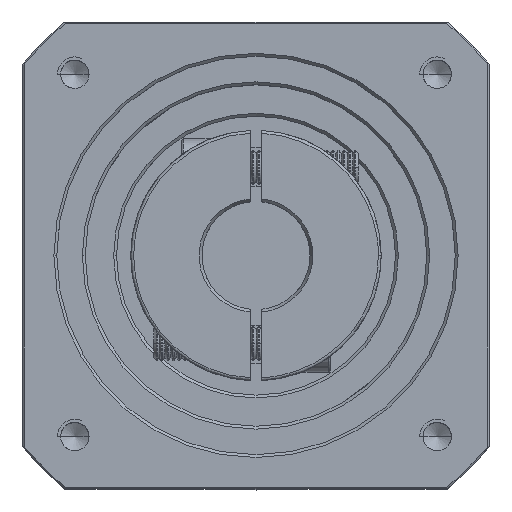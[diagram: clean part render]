
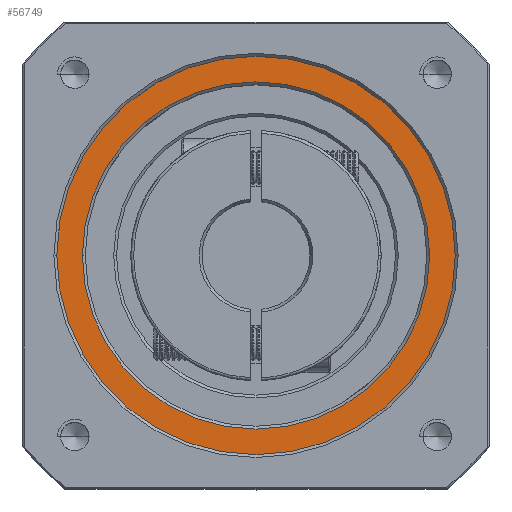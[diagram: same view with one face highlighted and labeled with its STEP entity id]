
A CAD part, top view. The second image highlights one B-rep face of the part: STEP entity #56749.
In plain terms, the highlighted planar face has unit normal (0, 0, 1).
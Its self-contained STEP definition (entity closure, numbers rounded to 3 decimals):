
#2249 = CARTESIAN_POINT ( 'NONE',  ( -121.742, 36.434, 43.304 ) ) ;
#2418 = VERTEX_POINT ( 'NONE', #78064 ) ;
#2423 = CARTESIAN_POINT ( 'NONE',  ( -86.742, 36.434, 43.304 ) ) ;
#9096 = DIRECTION ( 'NONE',  ( 1., 0., 0. ) ) ;
#12341 = DIRECTION ( 'NONE',  ( 1., 0., 0. ) ) ;
#13496 = CIRCLE ( 'NONE', #94220, 30.5 ) ;
#14192 = CARTESIAN_POINT ( 'NONE',  ( -86.742, 36.434, 43.304 ) ) ;
#16138 = DIRECTION ( 'NONE',  ( 0., 0., -1. ) ) ;
#17314 = VERTEX_POINT ( 'NONE', #123730 ) ;
#18472 = CIRCLE ( 'NONE', #92023, 30.5 ) ;
#24097 = DIRECTION ( 'NONE',  ( 1., 0., 0. ) ) ;
#26318 = VERTEX_POINT ( 'NONE', #2249 ) ;
#28475 = CARTESIAN_POINT ( 'NONE',  ( -86.742, 36.434, 43.304 ) ) ;
#38398 = DIRECTION ( 'NONE',  ( 1., 0., 0. ) ) ;
#38469 = EDGE_CURVE ( 'NONE', #17314, #26318, #78807, .T. ) ;
#43701 = ORIENTED_EDGE ( 'NONE', *, *, #38469, .T. ) ;
#52269 = EDGE_LOOP ( 'NONE', ( #43701, #66682 ) ) ;
#56749 = ADVANCED_FACE ( 'NONE', ( #85525, #88652 ), #75772, .T. ) ;
#62763 = AXIS2_PLACEMENT_3D ( 'NONE', #126695, #68022, #9096 ) ;
#63703 = EDGE_CURVE ( 'NONE', #71142, #2418, #13496, .T. ) ;
#66682 = ORIENTED_EDGE ( 'NONE', *, *, #112215, .T. ) ;
#68022 = DIRECTION ( 'NONE',  ( 0., 0., 1. ) ) ;
#69366 = CARTESIAN_POINT ( 'NONE',  ( -56.242, 36.434, 43.304 ) ) ;
#69678 = ORIENTED_EDGE ( 'NONE', *, *, #63703, .T. ) ;
#71142 = VERTEX_POINT ( 'NONE', #69366 ) ;
#71264 = DIRECTION ( 'NONE',  ( 0., 0., -1. ) ) ;
#75082 = CARTESIAN_POINT ( 'NONE',  ( -86.742, 36.434, 43.304 ) ) ;
#75772 = PLANE ( 'NONE',  #62763 ) ;
#78064 = CARTESIAN_POINT ( 'NONE',  ( -117.242, 36.434, 43.304 ) ) ;
#78807 = CIRCLE ( 'NONE', #118423, 35. ) ;
#83003 = DIRECTION ( 'NONE',  ( 0., 0., 1. ) ) ;
#84965 = DIRECTION ( 'NONE',  ( 1., 0., 0. ) ) ;
#85525 = FACE_OUTER_BOUND ( 'NONE', #52269, .T. ) ;
#88652 = FACE_BOUND ( 'NONE', #104989, .T. ) ;
#91649 = AXIS2_PLACEMENT_3D ( 'NONE', #14192, #83003, #24097 ) ;
#92023 = AXIS2_PLACEMENT_3D ( 'NONE', #75082, #16138, #84965 ) ;
#94220 = AXIS2_PLACEMENT_3D ( 'NONE', #2423, #71264, #12341 ) ;
#97302 = DIRECTION ( 'NONE',  ( 0., 0., 1. ) ) ;
#98741 = CIRCLE ( 'NONE', #91649, 35. ) ;
#98742 = ORIENTED_EDGE ( 'NONE', *, *, #114838, .T. ) ;
#104989 = EDGE_LOOP ( 'NONE', ( #69678, #98742 ) ) ;
#112215 = EDGE_CURVE ( 'NONE', #26318, #17314, #98741, .T. ) ;
#114838 = EDGE_CURVE ( 'NONE', #2418, #71142, #18472, .T. ) ;
#118423 = AXIS2_PLACEMENT_3D ( 'NONE', #28475, #97302, #38398 ) ;
#123730 = CARTESIAN_POINT ( 'NONE',  ( -51.742, 36.434, 43.304 ) ) ;
#126695 = CARTESIAN_POINT ( 'NONE',  ( -86.742, 36.434, 43.304 ) ) ;
